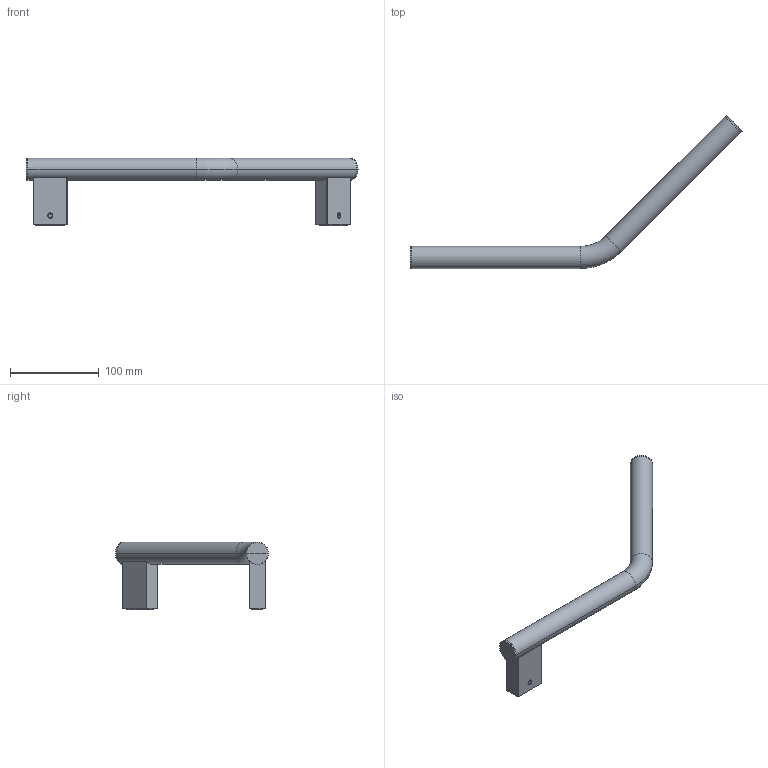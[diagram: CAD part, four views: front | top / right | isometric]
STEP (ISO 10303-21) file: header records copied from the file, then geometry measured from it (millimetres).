
FILE_DESCRIPTION (( 'STEP AP203' ), '1' );
FILE_NAME ('28056B-00-00.STEP', '2022-07-07T06:58:05', ( 'Windows User' ), ( 'P R C' ), 'SwSTEP 2.0', 'SolidWorks 2015', '' );
FILE_SCHEMA (( 'CONFIG_CONTROL_DESIGN' ));
Length unit declared in the file: millimetre
Products named in the file (1): 28056B-00-00
Bounding box: 373.84 x 172.4 x 76 mm (x, y, z)
Surface area: 63438.9 mm2 (no closed solid volume)
Topology: 0 solids, 11 shells, 173 faces, 616 edges, 453 vertices
Faces by surface type: plane 87, cylinder 68, cone 8, torus 6, sphere 4
Entity records: 6927 total; most frequent: CARTESIAN_POINT 1613, DIRECTION 1150, ORIENTED_EDGE 924, EDGE_CURVE 616, VERTEX_POINT 453, AXIS2_PLACEMENT_3D 396, LINE 358, VECTOR 358
